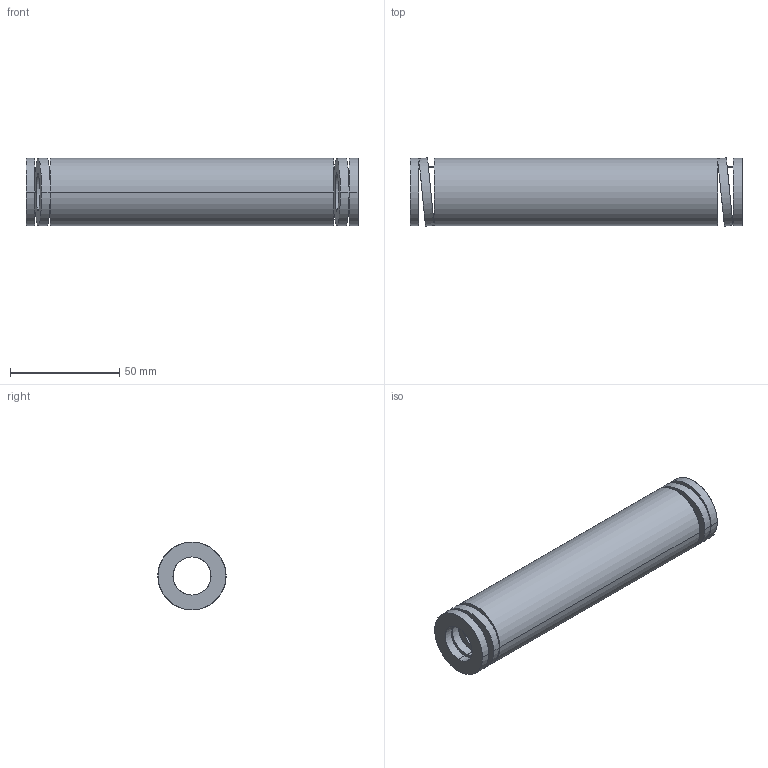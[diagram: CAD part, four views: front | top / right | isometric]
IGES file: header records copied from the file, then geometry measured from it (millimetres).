
Start section: START RECORD GO HERE.
Global section: file name: 392-B32-152.igs; native system: DASSAULT SYSTEMES CATIA V5 R20 - www.3ds.com; preprocessor: CATIA Version 5 Release 20 ; author: Utente; organization: NB04-ASUS; date: 20210813.105146; units: millimetre
Bounding box: 152 x 31.24 x 31 mm (x, y, z)
Surface area: 27309.9 mm2 (no closed solid volume)
Topology: 0 solids, 0 shells, 38 faces, 184 edges, 184 vertices
Faces by surface type: revolution 28, plane 10
